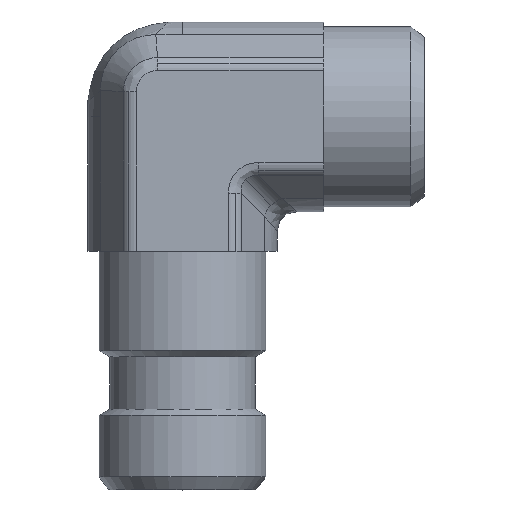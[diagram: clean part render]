
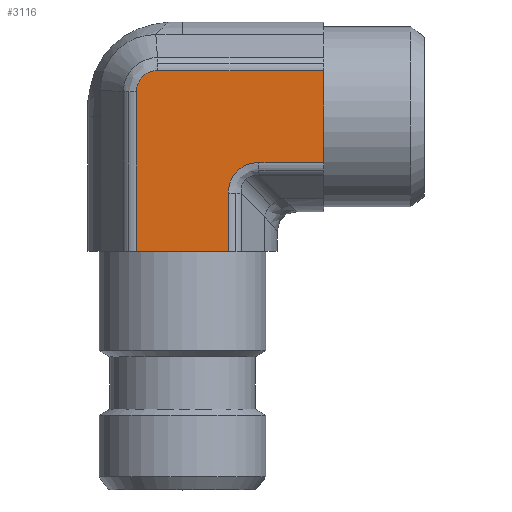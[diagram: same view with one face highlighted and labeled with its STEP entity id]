
A CAD part, top view. The second image highlights one B-rep face of the part: STEP entity #3116.
In plain terms, the highlighted planar face has unit normal (0, 0, 1) as drawn and (0, -1, 0) by its records, which use the part's own axes.
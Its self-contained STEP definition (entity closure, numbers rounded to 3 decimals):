
#319=CARTESIAN_POINT('',(3.092,-9.4,4.561));
#320=VERTEX_POINT('',#319);
#328=CARTESIAN_POINT('',(8.85,-9.4,4.561));
#329=VERTEX_POINT('',#328);
#330=CARTESIAN_POINT('',(3.092,-9.4,4.561));
#331=DIRECTION('',(1.0,0.0,0.0));
#332=VECTOR('',#331,5.758);
#333=LINE('',#330,#332);
#334=EDGE_CURVE('',#320,#329,#333,.T.);
#443=CARTESIAN_POINT('',(-9.061,-9.4,-2.461));
#444=VERTEX_POINT('',#443);
#452=CARTESIAN_POINT('',(-9.061,-9.4,14.0));
#453=VERTEX_POINT('',#452);
#454=CARTESIAN_POINT('',(-9.061,-9.4,-2.461));
#455=DIRECTION('',(0.0,0.0,1.0));
#456=VECTOR('',#455,16.461);
#457=LINE('',#454,#456);
#458=EDGE_CURVE('',#444,#453,#457,.T.);
#2041=CARTESIAN_POINT('',(8.85,-9.4,-4.561));
#2042=VERTEX_POINT('',#2041);
#2043=CARTESIAN_POINT('',(8.85,-9.4,-4.561));
#2044=DIRECTION('',(0.0,0.0,1.0));
#2045=VECTOR('',#2044,9.122);
#2046=LINE('',#2043,#2045);
#2047=EDGE_CURVE('',#2042,#329,#2046,.T.);
#2331=CARTESIAN_POINT('',(0.061,-9.4,14.0));
#2332=VERTEX_POINT('',#2331);
#2333=CARTESIAN_POINT('',(0.061,-9.4,14.0));
#2334=DIRECTION('',(-1.0,0.0,0.0));
#2335=VECTOR('',#2334,9.122);
#2336=LINE('',#2333,#2335);
#2337=EDGE_CURVE('',#2332,#453,#2336,.T.);
#2802=CARTESIAN_POINT('',(-6.961,-9.4,-4.561));
#2803=VERTEX_POINT('',#2802);
#2811=CARTESIAN_POINT('',(-9.061,-9.4,-2.461));
#2812=CARTESIAN_POINT('',(-9.061,-9.4,-2.598));
#2813=CARTESIAN_POINT('',(-9.048,-9.4,-2.736));
#2814=CARTESIAN_POINT('',(-8.977,-9.4,-3.088));
#2815=CARTESIAN_POINT('',(-8.901,-9.4,-3.296));
#2816=CARTESIAN_POINT('',(-8.62,-9.4,-3.796));
#2817=CARTESIAN_POINT('',(-8.37,-9.4,-4.058));
#2818=CARTESIAN_POINT('',(-7.737,-9.4,-4.451));
#2819=CARTESIAN_POINT('',(-7.349,-9.4,-4.561));
#2820=CARTESIAN_POINT('',(-6.961,-9.4,-4.561));
#2821=B_SPLINE_CURVE_WITH_KNOTS('',3,(#2811,#2812,#2813,#2814,#2815,#2816,#2817,#2818,#2819,#2820),.UNSPECIFIED.,.F.,.U.,(4,2,2,2,4),(-3.281,-2.871,-2.215,-1.165,0.0),.UNSPECIFIED.);
#2822=EDGE_CURVE('',#2803,#444,#2821,.F.);
#2849=CARTESIAN_POINT('',(8.85,-9.4,-4.561));
#2850=DIRECTION('',(-1.0,0.0,0.0));
#2851=VECTOR('',#2850,15.811);
#2852=LINE('',#2849,#2851);
#2853=EDGE_CURVE('',#2042,#2803,#2852,.T.);
#2985=CARTESIAN_POINT('',(0.061,-9.4,7.592));
#2986=VERTEX_POINT('',#2985);
#2987=CARTESIAN_POINT('',(0.061,-9.4,14.0));
#2988=DIRECTION('',(0.0,0.0,-1.0));
#2989=VECTOR('',#2988,6.408);
#2990=LINE('',#2987,#2989);
#2991=EDGE_CURVE('',#2332,#2986,#2990,.T.);
#3074=CARTESIAN_POINT('',(4.103,-9.4,8.603));
#3075=DIRECTION('',(0.,-1.0,0.));
#3076=DIRECTION('',(-0.707,0.,-0.707));
#3077=AXIS2_PLACEMENT_3D('',#3074,#3075,#3076);
#3078=ELLIPSE('',#3077,4.518,3.5);
#3079=EDGE_CURVE('',#2986,#320,#3078,.T.);
#3101=CARTESIAN_POINT('',(-4.5,-9.4,-3.175));
#3102=DIRECTION('',(0.0,-1.0,0.0));
#3103=DIRECTION('',(0.0,0.0,-1.0));
#3104=AXIS2_PLACEMENT_3D('',#3101,#3102,#3103);
#3105=PLANE('',#3104);
#3106=ORIENTED_EDGE('',*,*,#2047,.T.);
#3107=ORIENTED_EDGE('',*,*,#334,.F.);
#3108=ORIENTED_EDGE('',*,*,#3079,.F.);
#3109=ORIENTED_EDGE('',*,*,#2991,.F.);
#3110=ORIENTED_EDGE('',*,*,#2337,.T.);
#3111=ORIENTED_EDGE('',*,*,#458,.F.);
#3112=ORIENTED_EDGE('',*,*,#2822,.F.);
#3113=ORIENTED_EDGE('',*,*,#2853,.F.);
#3114=EDGE_LOOP('',(#3106,#3107,#3108,#3109,#3110,#3111,#3112,#3113));
#3115=FACE_OUTER_BOUND('',#3114,.T.);
#3116=ADVANCED_FACE('',(#3115),#3105,.T.);
